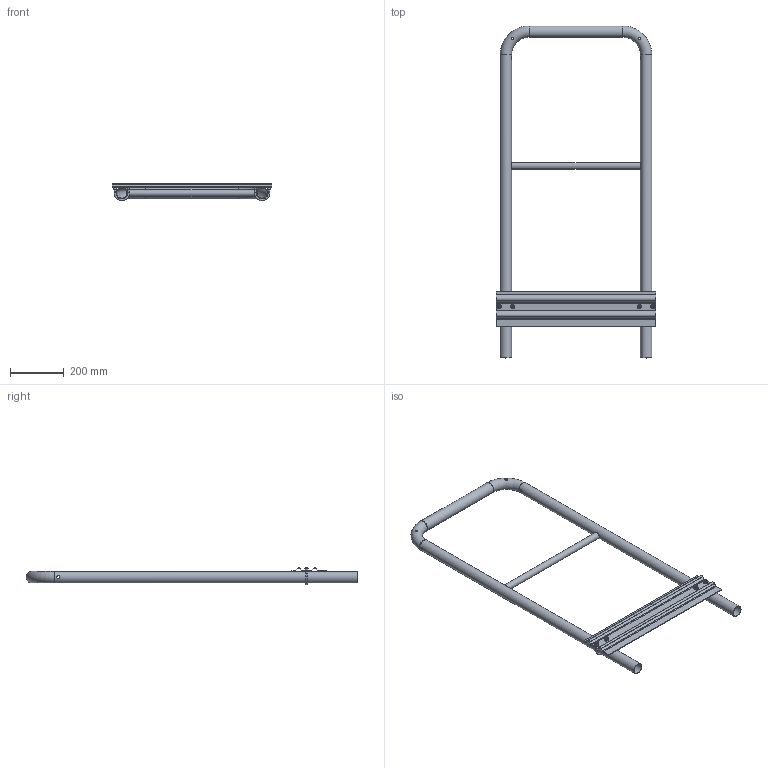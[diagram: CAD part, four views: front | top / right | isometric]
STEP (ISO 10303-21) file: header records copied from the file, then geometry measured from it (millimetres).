
FILE_DESCRIPTION((''),'2;1');
FILE_NAME('S:\Användarkataloger\AndreasA\Mina Inventor filer\Räcken\STEP\modul_ind_slist_600-1216.stp','2010-09-07T13:20:52',('AndreasA'),(''),'Autodesk Inventor 2011','Autodesk Inventor 2011','');
FILE_SCHEMA(('AUTOMOTIVE_DESIGN { 1 0 10303 214 1 1 1 1 }'));
Length unit declared in the file: millimetre
Products named in the file (9): modul_ind_slist_600-1216; modul_ind_600-1216; handledare_modul_600-1216; mellanliggare_modul_600; sparklist_k130_modul_600; bygelskruv_U42_kpl; bygelskruv_U42; SS 3576 8; ISO 4032 M8
Assembly tree (11 placements, depth 3):
  modul_ind_slist_600-1216
    modul_ind_600-1216
      handledare_modul_600-1216
      mellanliggare_modul_600
    sparklist_k130_modul_600
    bygelskruv_U42_kpl  x2
      bygelskruv_U42
      SS 3576 8
      ISO 4032 M8
Bounding box: 596 x 1237.2 x 64.99 mm (x, y, z)
Volume: 1032702.8 mm3; surface area: 989373 mm2
Topology: 13 solids, 13 shells, 148 faces, 350 edges, 224 vertices
Faces by surface type: plane 66, cylinder 52, cone 24, torus 6
Full cylindrical faces by diameter (mm): 6.647 x4, 7 x4, 8 x4, 8.4 x4, 10 x4, 11 x8, 16 x4, 21 x1, 25 x1, 38.4 x3, 42.4 x3
Entity records: 3275 total; most frequent: CARTESIAN_POINT 1136, DIRECTION 414, ORIENTED_EDGE 324, AXIS2_PLACEMENT_3D 174, EDGE_CURVE 162, EDGE_LOOP 158, VERTEX_POINT 128, FACE_OUTER_BOUND 86
